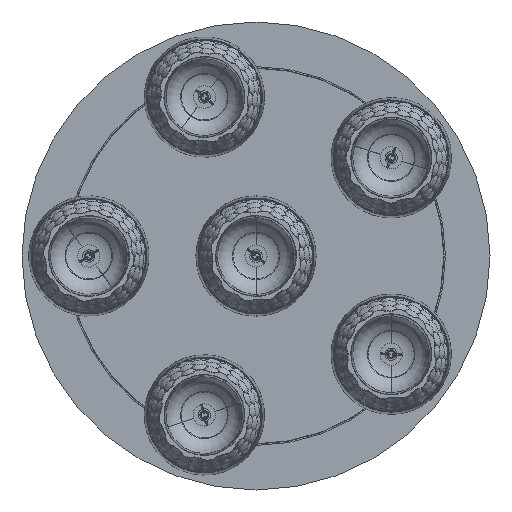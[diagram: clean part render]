
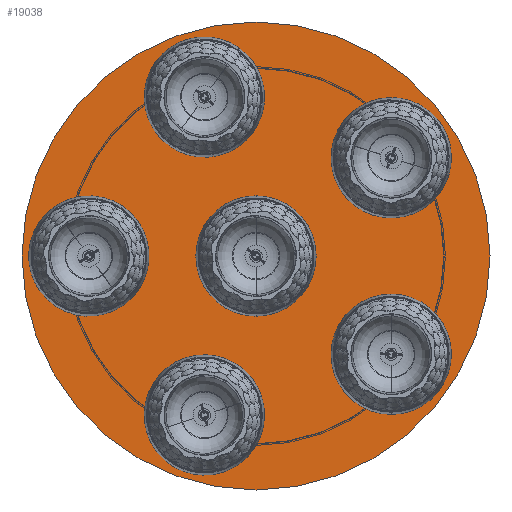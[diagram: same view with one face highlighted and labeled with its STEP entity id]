
A CAD part, front view. The second image highlights one B-rep face of the part: STEP entity #19038.
In plain terms, the highlighted planar face has unit normal (0, -1, 0).
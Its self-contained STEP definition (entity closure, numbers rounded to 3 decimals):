
#167 = CARTESIAN_POINT ( 'NONE',  ( 46.353, -1.2, 142.658 ) ) ;
#589 = VERTEX_POINT ( 'NONE', #29280 ) ;
#799 = AXIS2_PLACEMENT_3D ( 'NONE', #15673, #23060, #1458 ) ;
#1016 = CARTESIAN_POINT ( 'NONE',  ( -121.353, -1.2, -88.168 ) ) ;
#1100 = ORIENTED_EDGE ( 'NONE', *, *, #21916, .F. ) ;
#1144 = FACE_BOUND ( 'NONE', #7183, .T. ) ;
#1458 = DIRECTION ( 'NONE',  ( 0., 0., -1. ) ) ;
#2043 = DIRECTION ( 'NONE',  ( 0., 0., -1. ) ) ;
#2233 = CARTESIAN_POINT ( 'NONE',  ( 46.353, -1.2, -142.658 ) ) ;
#2777 = AXIS2_PLACEMENT_3D ( 'NONE', #29468, #14729, #3418 ) ;
#3115 = AXIS2_PLACEMENT_3D ( 'NONE', #10990, #29956, #20397 ) ;
#3418 = DIRECTION ( 'NONE',  ( 0., 0., -1. ) ) ;
#3751 = CIRCLE ( 'NONE', #13639, 5.25 ) ;
#4084 = EDGE_LOOP ( 'NONE', ( #16004, #13908 ) ) ;
#4248 = CIRCLE ( 'NONE', #799, 5.25 ) ;
#4375 = CARTESIAN_POINT ( 'NONE',  ( 0., -1.2, -210. ) ) ;
#4458 = VERTEX_POINT ( 'NONE', #4375 ) ;
#4752 = ORIENTED_EDGE ( 'NONE', *, *, #4877, .F. ) ;
#4799 = EDGE_CURVE ( 'NONE', #11620, #16162, #8136, .T. ) ;
#4857 = CIRCLE ( 'NONE', #22079, 210. ) ;
#4877 = EDGE_CURVE ( 'NONE', #27760, #14664, #27326, .T. ) ;
#5397 = VERTEX_POINT ( 'NONE', #29216 ) ;
#5793 = DIRECTION ( 'NONE',  ( 0., -1., 0. ) ) ;
#5935 = EDGE_CURVE ( 'NONE', #12581, #27990, #12530, .T. ) ;
#6390 = CARTESIAN_POINT ( 'NONE',  ( 0., -1.2, -5.25 ) ) ;
#6398 = FACE_BOUND ( 'NONE', #29067, .T. ) ;
#7183 = EDGE_LOOP ( 'NONE', ( #8767, #27687 ) ) ;
#7298 = CARTESIAN_POINT ( 'NONE',  ( 46.353, -1.2, 137.408 ) ) ;
#7947 = FACE_BOUND ( 'NONE', #24255, .T. ) ;
#8129 = DIRECTION ( 'NONE',  ( 0., -1., 0. ) ) ;
#8136 = CIRCLE ( 'NONE', #25380, 5.25 ) ;
#8767 = ORIENTED_EDGE ( 'NONE', *, *, #27938, .F. ) ;
#9002 = CARTESIAN_POINT ( 'NONE',  ( -121.353, -1.2, 93.418 ) ) ;
#9390 = EDGE_CURVE ( 'NONE', #4458, #13141, #4857, .T. ) ;
#10162 = AXIS2_PLACEMENT_3D ( 'NONE', #28391, #18846, #2043 ) ;
#10328 = CARTESIAN_POINT ( 'NONE',  ( 46.353, -1.2, -137.408 ) ) ;
#10424 = DIRECTION ( 'NONE',  ( 0., 0., -1. ) ) ;
#10551 = DIRECTION ( 'NONE',  ( 0., 1., 0. ) ) ;
#10990 = CARTESIAN_POINT ( 'NONE',  ( 0., -1.2, 0. ) ) ;
#11343 = CARTESIAN_POINT ( 'NONE',  ( 0., -1.2, 210. ) ) ;
#11437 = DIRECTION ( 'NONE',  ( 0., -1., 0. ) ) ;
#11542 = DIRECTION ( 'NONE',  ( 0., 1., 0. ) ) ;
#11620 = VERTEX_POINT ( 'NONE', #26472 ) ;
#12011 = VERTEX_POINT ( 'NONE', #6390 ) ;
#12468 = DIRECTION ( 'NONE',  ( 0., -1., 0. ) ) ;
#12530 = CIRCLE ( 'NONE', #29733, 5.25 ) ;
#12581 = VERTEX_POINT ( 'NONE', #10328 ) ;
#12594 = FACE_BOUND ( 'NONE', #18912, .T. ) ;
#12992 = VERTEX_POINT ( 'NONE', #27083 ) ;
#13141 = VERTEX_POINT ( 'NONE', #11343 ) ;
#13545 = VERTEX_POINT ( 'NONE', #14387 ) ;
#13639 = AXIS2_PLACEMENT_3D ( 'NONE', #2233, #16756, #16603 ) ;
#13712 = CIRCLE ( 'NONE', #24484, 5.25 ) ;
#13908 = ORIENTED_EDGE ( 'NONE', *, *, #5935, .F. ) ;
#14047 = AXIS2_PLACEMENT_3D ( 'NONE', #19850, #8129, #17561 ) ;
#14225 = DIRECTION ( 'NONE',  ( 0., 0., -1. ) ) ;
#14387 = CARTESIAN_POINT ( 'NONE',  ( 150., -1.2, 5.25 ) ) ;
#14428 = CARTESIAN_POINT ( 'NONE',  ( -121.353, -1.2, -88.168 ) ) ;
#14484 = CIRCLE ( 'NONE', #3115, 210. ) ;
#14664 = VERTEX_POINT ( 'NONE', #24564 ) ;
#14729 = DIRECTION ( 'NONE',  ( 0., -1., 0. ) ) ;
#15243 = EDGE_LOOP ( 'NONE', ( #24698, #23789 ) ) ;
#15673 = CARTESIAN_POINT ( 'NONE',  ( 150., -1.2, 0. ) ) ;
#15810 = AXIS2_PLACEMENT_3D ( 'NONE', #25669, #22752, #20753 ) ;
#15977 = CARTESIAN_POINT ( 'NONE',  ( 0., -1.2, 0. ) ) ;
#16004 = ORIENTED_EDGE ( 'NONE', *, *, #19165, .F. ) ;
#16099 = AXIS2_PLACEMENT_3D ( 'NONE', #1016, #12468, #10424 ) ;
#16162 = VERTEX_POINT ( 'NONE', #7298 ) ;
#16603 = DIRECTION ( 'NONE',  ( 0., 0., -1. ) ) ;
#16705 = DIRECTION ( 'NONE',  ( 0., -1., 0. ) ) ;
#16756 = DIRECTION ( 'NONE',  ( 0., -1., 0. ) ) ;
#17091 = ORIENTED_EDGE ( 'NONE', *, *, #9390, .F. ) ;
#17561 = DIRECTION ( 'NONE',  ( 0., 0., -1. ) ) ;
#17820 = CARTESIAN_POINT ( 'NONE',  ( 46.353, -1.2, -147.908 ) ) ;
#17944 = EDGE_CURVE ( 'NONE', #30286, #12992, #19565, .T. ) ;
#18029 = CARTESIAN_POINT ( 'NONE',  ( 0., -1.2, 0. ) ) ;
#18060 = CIRCLE ( 'NONE', #16099, 5.25 ) ;
#18194 = EDGE_CURVE ( 'NONE', #13545, #5397, #13712, .T. ) ;
#18468 = CIRCLE ( 'NONE', #14047, 5.25 ) ;
#18560 = CIRCLE ( 'NONE', #2777, 5.25 ) ;
#18846 = DIRECTION ( 'NONE',  ( 0., -1., 0. ) ) ;
#18912 = EDGE_LOOP ( 'NONE', ( #23314, #27504 ) ) ;
#19038 = ADVANCED_FACE ( 'NONE', ( #12594, #7947, #6398, #27516, #20589, #1144, #19961 ), #25050, .F. ) ;
#19165 = EDGE_CURVE ( 'NONE', #27990, #12581, #3751, .T. ) ;
#19487 = EDGE_CURVE ( 'NONE', #14664, #27760, #18560, .T. ) ;
#19565 = CIRCLE ( 'NONE', #22513, 5.25 ) ;
#19850 = CARTESIAN_POINT ( 'NONE',  ( 0., -1.2, 0. ) ) ;
#19944 = DIRECTION ( 'NONE',  ( 0., -1., 0. ) ) ;
#19961 = FACE_OUTER_BOUND ( 'NONE', #25616, .T. ) ;
#20082 = ORIENTED_EDGE ( 'NONE', *, *, #19487, .F. ) ;
#20109 = EDGE_CURVE ( 'NONE', #13141, #4458, #14484, .T. ) ;
#20380 = CIRCLE ( 'NONE', #26769, 5.25 ) ;
#20397 = DIRECTION ( 'NONE',  ( 0., 0., 1. ) ) ;
#20429 = DIRECTION ( 'NONE',  ( 0., 0., 1. ) ) ;
#20530 = ORIENTED_EDGE ( 'NONE', *, *, #20109, .F. ) ;
#20589 = FACE_BOUND ( 'NONE', #4084, .T. ) ;
#20753 = DIRECTION ( 'NONE',  ( 0., 0., -1. ) ) ;
#21916 = EDGE_CURVE ( 'NONE', #16162, #11620, #20380, .T. ) ;
#22079 = AXIS2_PLACEMENT_3D ( 'NONE', #18029, #11542, #27406 ) ;
#22513 = AXIS2_PLACEMENT_3D ( 'NONE', #14428, #23807, #22942 ) ;
#22602 = CARTESIAN_POINT ( 'NONE',  ( 46.353, -1.2, 142.658 ) ) ;
#22752 = DIRECTION ( 'NONE',  ( 0., -1., 0. ) ) ;
#22832 = ORIENTED_EDGE ( 'NONE', *, *, #4799, .F. ) ;
#22942 = DIRECTION ( 'NONE',  ( 0., 0., -1. ) ) ;
#23060 = DIRECTION ( 'NONE',  ( 0., -1., 0. ) ) ;
#23163 = DIRECTION ( 'NONE',  ( 0., 0., -1. ) ) ;
#23314 = ORIENTED_EDGE ( 'NONE', *, *, #28161, .F. ) ;
#23524 = EDGE_CURVE ( 'NONE', #589, #12011, #18468, .T. ) ;
#23789 = ORIENTED_EDGE ( 'NONE', *, *, #28480, .F. ) ;
#23807 = DIRECTION ( 'NONE',  ( 0., -1., 0. ) ) ;
#24255 = EDGE_LOOP ( 'NONE', ( #1100, #22832 ) ) ;
#24484 = AXIS2_PLACEMENT_3D ( 'NONE', #29187, #19944, #26588 ) ;
#24564 = CARTESIAN_POINT ( 'NONE',  ( -121.353, -1.2, 82.918 ) ) ;
#24698 = ORIENTED_EDGE ( 'NONE', *, *, #17944, .F. ) ;
#25050 = PLANE ( 'NONE',  #25927 ) ;
#25380 = AXIS2_PLACEMENT_3D ( 'NONE', #22602, #5793, #29673 ) ;
#25616 = EDGE_LOOP ( 'NONE', ( #20530, #17091 ) ) ;
#25669 = CARTESIAN_POINT ( 'NONE',  ( -121.353, -1.2, 88.168 ) ) ;
#25927 = AXIS2_PLACEMENT_3D ( 'NONE', #15977, #10551, #20429 ) ;
#26472 = CARTESIAN_POINT ( 'NONE',  ( 46.353, -1.2, 147.908 ) ) ;
#26588 = DIRECTION ( 'NONE',  ( 0., 0., -1. ) ) ;
#26769 = AXIS2_PLACEMENT_3D ( 'NONE', #167, #16705, #14225 ) ;
#27083 = CARTESIAN_POINT ( 'NONE',  ( -121.353, -1.2, -82.918 ) ) ;
#27326 = CIRCLE ( 'NONE', #15810, 5.25 ) ;
#27406 = DIRECTION ( 'NONE',  ( 0., 0., 1. ) ) ;
#27504 = ORIENTED_EDGE ( 'NONE', *, *, #23524, .F. ) ;
#27516 = FACE_BOUND ( 'NONE', #15243, .T. ) ;
#27604 = CARTESIAN_POINT ( 'NONE',  ( 46.353, -1.2, -142.658 ) ) ;
#27687 = ORIENTED_EDGE ( 'NONE', *, *, #18194, .F. ) ;
#27760 = VERTEX_POINT ( 'NONE', #9002 ) ;
#27874 = CIRCLE ( 'NONE', #10162, 5.25 ) ;
#27938 = EDGE_CURVE ( 'NONE', #5397, #13545, #4248, .T. ) ;
#27941 = CARTESIAN_POINT ( 'NONE',  ( -121.353, -1.2, -93.418 ) ) ;
#27990 = VERTEX_POINT ( 'NONE', #17820 ) ;
#28161 = EDGE_CURVE ( 'NONE', #12011, #589, #27874, .T. ) ;
#28391 = CARTESIAN_POINT ( 'NONE',  ( 0., -1.2, 0. ) ) ;
#28480 = EDGE_CURVE ( 'NONE', #12992, #30286, #18060, .T. ) ;
#29067 = EDGE_LOOP ( 'NONE', ( #20082, #4752 ) ) ;
#29187 = CARTESIAN_POINT ( 'NONE',  ( 150., -1.2, 0. ) ) ;
#29216 = CARTESIAN_POINT ( 'NONE',  ( 150., -1.2, -5.25 ) ) ;
#29280 = CARTESIAN_POINT ( 'NONE',  ( 0., -1.2, 5.25 ) ) ;
#29468 = CARTESIAN_POINT ( 'NONE',  ( -121.353, -1.2, 88.168 ) ) ;
#29673 = DIRECTION ( 'NONE',  ( 0., 0., -1. ) ) ;
#29733 = AXIS2_PLACEMENT_3D ( 'NONE', #27604, #11437, #23163 ) ;
#29956 = DIRECTION ( 'NONE',  ( 0., 1., 0. ) ) ;
#30286 = VERTEX_POINT ( 'NONE', #27941 ) ;
